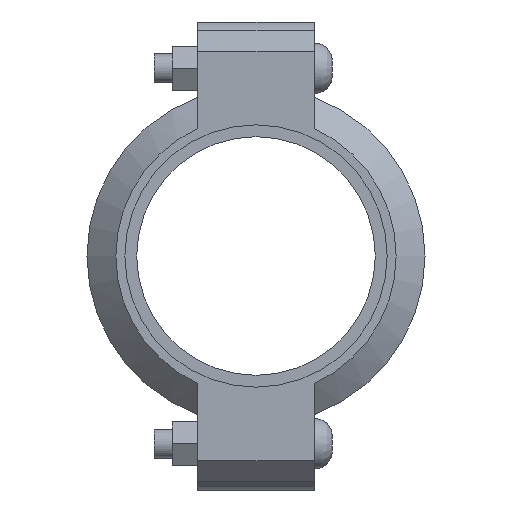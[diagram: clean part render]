
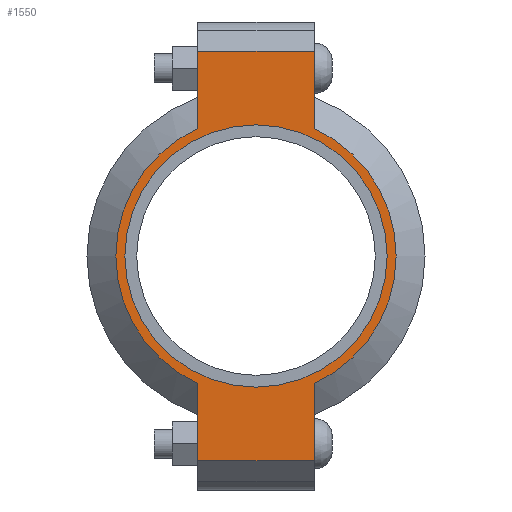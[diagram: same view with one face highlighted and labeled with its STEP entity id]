
A CAD part, left-side view. The second image highlights one B-rep face of the part: STEP entity #1550.
In plain terms, the highlighted planar face has unit normal (-1, 0, 0) as drawn and (0, 0, 1) by its records, which use the part's own axes.
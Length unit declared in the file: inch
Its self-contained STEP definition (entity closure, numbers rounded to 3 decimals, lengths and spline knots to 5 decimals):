
#174=LINE('',#2705,#267);
#182=LINE('',#2741,#275);
#189=LINE('',#2762,#282);
#198=LINE('',#2794,#291);
#199=LINE('',#2798,#292);
#200=LINE('',#2800,#293);
#267=VECTOR('',#2205,0.3937);
#275=VECTOR('',#2221,0.3937);
#282=VECTOR('',#2240,0.3937);
#291=VECTOR('',#2265,0.3937);
#292=VECTOR('',#2270,0.3937);
#293=VECTOR('',#2271,0.3937);
#349=FACE_BOUND('',#527,.T.);
#421=FACE_OUTER_BOUND('',#526,.T.);
#526=EDGE_LOOP('',(#1291,#1292,#1293,#1294,#1295,#1296,#1297,#1298));
#527=EDGE_LOOP('',(#1299));
#599=CIRCLE('',#1769,2.25);
#625=CIRCLE('',#1828,2.405);
#626=CIRCLE('',#1829,2.405);
#691=VERTEX_POINT('',#2521);
#734=VERTEX_POINT('',#2702);
#735=VERTEX_POINT('',#2704);
#746=VERTEX_POINT('',#2736);
#747=VERTEX_POINT('',#2740);
#754=VERTEX_POINT('',#2759);
#755=VERTEX_POINT('',#2761);
#765=VERTEX_POINT('',#2797);
#766=VERTEX_POINT('',#2799);
#847=EDGE_CURVE('',#691,#691,#599,.T.);
#908=EDGE_CURVE('',#735,#734,#174,.T.);
#922=EDGE_CURVE('',#747,#746,#182,.T.);
#932=EDGE_CURVE('',#755,#754,#189,.T.);
#947=EDGE_CURVE('',#747,#734,#198,.T.);
#948=EDGE_CURVE('',#746,#755,#625,.T.);
#949=EDGE_CURVE('',#765,#754,#199,.T.);
#950=EDGE_CURVE('',#765,#766,#200,.T.);
#951=EDGE_CURVE('',#766,#735,#626,.T.);
#1291=ORIENTED_EDGE('',*,*,#947,.F.);
#1292=ORIENTED_EDGE('',*,*,#922,.T.);
#1293=ORIENTED_EDGE('',*,*,#948,.T.);
#1294=ORIENTED_EDGE('',*,*,#932,.T.);
#1295=ORIENTED_EDGE('',*,*,#949,.F.);
#1296=ORIENTED_EDGE('',*,*,#950,.T.);
#1297=ORIENTED_EDGE('',*,*,#951,.T.);
#1298=ORIENTED_EDGE('',*,*,#908,.T.);
#1299=ORIENTED_EDGE('',*,*,#847,.T.);
#1392=PLANE('',#1827);
#1550=ADVANCED_FACE('',(#421,#349),#1392,.T.);
#1769=AXIS2_PLACEMENT_3D('',#2523,#2081,#2082);
#1827=AXIS2_PLACEMENT_3D('',#2795,#2266,#2267);
#1828=AXIS2_PLACEMENT_3D('',#2796,#2268,#2269);
#1829=AXIS2_PLACEMENT_3D('',#2801,#2272,#2273);
#2081=DIRECTION('center_axis',(0.,0.,-1.));
#2082=DIRECTION('ref_axis',(-1.,0.,0.));
#2205=DIRECTION('',(-1.,0.,0.));
#2221=DIRECTION('',(1.,0.,0.));
#2240=DIRECTION('',(1.,0.,0.));
#2265=DIRECTION('',(0.,1.,0.));
#2266=DIRECTION('center_axis',(0.,0.,1.));
#2267=DIRECTION('ref_axis',(1.,0.,0.));
#2268=DIRECTION('center_axis',(0.,0.,1.));
#2269=DIRECTION('ref_axis',(-1.,0.,0.));
#2270=DIRECTION('',(0.,-1.,0.));
#2271=DIRECTION('',(-1.,0.,0.));
#2272=DIRECTION('center_axis',(0.,0.,1.));
#2273=DIRECTION('ref_axis',(-1.,0.,0.));
#2521=CARTESIAN_POINT('',(2.25,0.,1.065));
#2523=CARTESIAN_POINT('Origin',(0.,0.,1.065));
#2702=CARTESIAN_POINT('',(-3.515,1.,1.065));
#2704=CARTESIAN_POINT('',(-2.18724,1.,1.065));
#2705=CARTESIAN_POINT('',(-4.015,1.,1.065));
#2736=CARTESIAN_POINT('',(-2.18724,-1.,1.065));
#2740=CARTESIAN_POINT('',(-3.515,-1.,1.065));
#2741=CARTESIAN_POINT('',(4.015,-1.,1.065));
#2759=CARTESIAN_POINT('',(3.515,-1.,1.065));
#2761=CARTESIAN_POINT('',(2.18724,-1.,1.065));
#2762=CARTESIAN_POINT('',(4.015,-1.,1.065));
#2794=CARTESIAN_POINT('',(-3.515,0.5,1.065));
#2795=CARTESIAN_POINT('Origin',(0.,0.,1.065));
#2796=CARTESIAN_POINT('Origin',(0.,0.,1.065));
#2797=CARTESIAN_POINT('',(3.515,1.,1.065));
#2798=CARTESIAN_POINT('',(3.515,-0.5,1.065));
#2799=CARTESIAN_POINT('',(2.18724,1.,1.065));
#2800=CARTESIAN_POINT('',(-4.015,1.,1.065));
#2801=CARTESIAN_POINT('Origin',(0.,0.,1.065));
